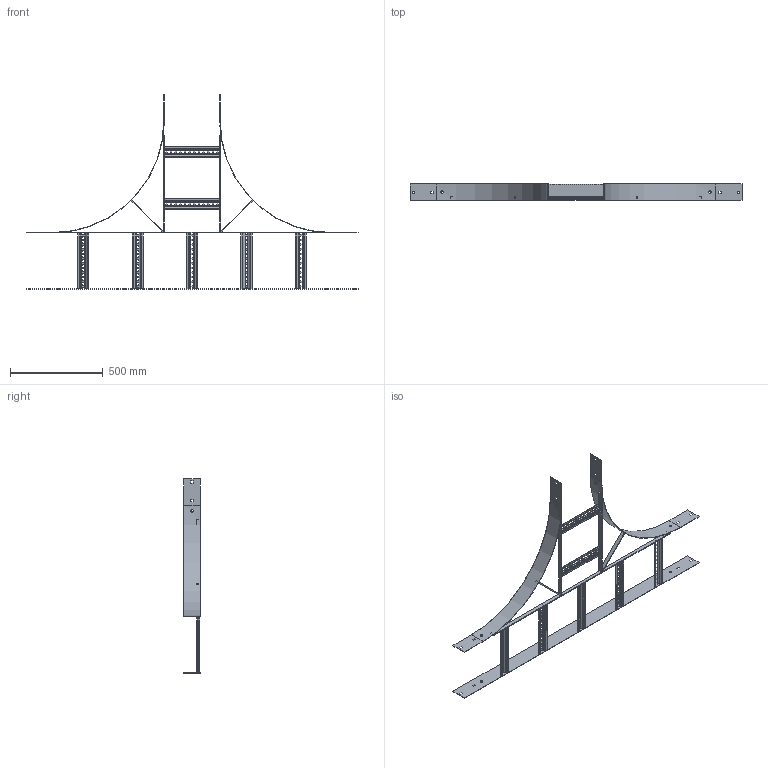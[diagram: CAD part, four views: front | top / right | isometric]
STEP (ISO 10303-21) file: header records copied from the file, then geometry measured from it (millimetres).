
FILE_DESCRIPTION (( 'STEP AP203' ), '1' );
FILE_NAME ('N2 T 3006.STEP', '2024-08-27T22:54:59', ( '' ), ( '' ), 'SwSTEP 2.0', 'SolidWorks 2023', '' );
FILE_SCHEMA (( 'CONFIG_CONTROL_DESIGN' ));
Length unit declared in the file: millimetre
Products named in the file (7): Ladder Tee 20x5 Flat Bar_1345; Ladder Tee 20x5 Flat Bar_518; N2 T 3006; Ladder Tee 20x5 Flat Bar_240; N2 Back Plate_1800; N2 RADIUS PLATE_N1-600 IR; Ladder Rung_Ladder Rung -  300mm
Assembly tree (15 placements, depth 2):
  N2 T 3006
    N2 Back Plate_1800
    Ladder Rung_Ladder Rung -  300mm  x7
    Ladder Tee 20x5 Flat Bar_1345
    N2 RADIUS PLATE_N1-600 IR  x2
    Ladder Tee 20x5 Flat Bar_518  x2
    Ladder Tee 20x5 Flat Bar_240  x2
Bounding box: 1785 x 87 x 1044.5 mm (x, y, z)
Volume: 1242070.1 mm3; surface area: 1191607.3 mm2
Topology: 15 solids, 15 shells, 754 faces, 1932 edges, 1208 vertices
Faces by surface type: plane 682, cylinder 72
Entity records: 6389 total; most frequent: CARTESIAN_POINT 1230, ORIENTED_EDGE 856, DIRECTION 820, EDGE_CURVE 428, VECTOR 392, LINE 392, VERTEX_POINT 272, AXIS2_PLACEMENT_3D 214
